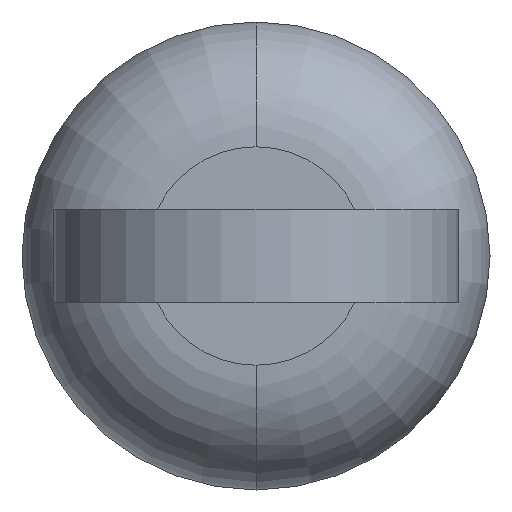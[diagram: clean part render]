
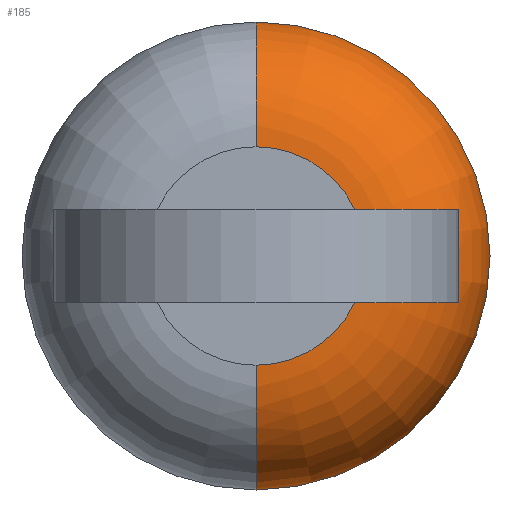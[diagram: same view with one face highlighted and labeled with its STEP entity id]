
A CAD part, front view. The second image highlights one B-rep face of the part: STEP entity #185.
In plain terms, the highlighted toroidal (fillet/blend) face has major radius 3.5 mm and minor radius 4 mm.
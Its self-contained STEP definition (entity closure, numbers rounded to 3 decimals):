
#4 = EDGE_CURVE ( 'NONE', #837, #974, #971, .T. ) ;
#10 = CARTESIAN_POINT ( 'NONE',  ( 5.578, 13.196, 1.5 ) ) ;
#15 = CARTESIAN_POINT ( 'NONE',  ( 3.799, 12.531, 1.5 ) ) ;
#39 = CARTESIAN_POINT ( 'NONE',  ( 4.415, 12.67, -1.5 ) ) ;
#53 = VERTEX_POINT ( 'NONE', #1156 ) ;
#55 = ORIENTED_EDGE ( 'NONE', *, *, #4, .F. ) ;
#110 = CARTESIAN_POINT ( 'NONE',  ( 6.301, 13.81, -1.5 ) ) ;
#115 = CARTESIAN_POINT ( 'NONE',  ( 0., 12.5, 0. ) ) ;
#117 = CARTESIAN_POINT ( 'NONE',  ( 5.57, 13.19, -1.5 ) ) ;
#121 = CARTESIAN_POINT ( 'NONE',  ( 6.5, 14.062, -1.5 ) ) ;
#124 = AXIS2_PLACEMENT_3D ( 'NONE', #115, #784, #600 ) ;
#127 = B_SPLINE_CURVE_WITH_KNOTS ( 'NONE', 3,
 ( #621, #1082, #918, #1010, #532, #348, #1103, #815 ),
 .UNSPECIFIED., .F., .F.,
 ( 4, 2, 2, 4 ),
 ( 0., 0.002, 0.002, 0.003 ),
 .UNSPECIFIED. ) ;
#138 = DIRECTION ( 'NONE',  ( 0., 0., 1. ) ) ;
#141 = DIRECTION ( 'NONE',  ( 0., -1., 0. ) ) ;
#151 = CARTESIAN_POINT ( 'NONE',  ( 0., 16.5, 3.5 ) ) ;
#185 = ADVANCED_FACE ( 'NONE', ( #526 ), #1227, .T. ) ;
#215 = CARTESIAN_POINT ( 'NONE',  ( 4.868, 12.828, -1.5 ) ) ;
#229 = EDGE_CURVE ( 'NONE', #294, #891, #127, .T. ) ;
#241 = AXIS2_PLACEMENT_3D ( 'NONE', #1116, #357, #455 ) ;
#254 = CARTESIAN_POINT ( 'NONE',  ( 0., 12.5, 0. ) ) ;
#294 = VERTEX_POINT ( 'NONE', #1198 ) ;
#303 = CARTESIAN_POINT ( 'NONE',  ( 3.798, 12.531, -1.5 ) ) ;
#319 = ORIENTED_EDGE ( 'NONE', *, *, #1074, .F. ) ;
#321 = CARTESIAN_POINT ( 'NONE',  ( 0., 16.5, 0. ) ) ;
#348 = CARTESIAN_POINT ( 'NONE',  ( 6.5, 13.938, 1.006 ) ) ;
#357 = DIRECTION ( 'NONE',  ( 1., 0., 0. ) ) ;
#361 = ORIENTED_EDGE ( 'NONE', *, *, #397, .T. ) ;
#383 = CARTESIAN_POINT ( 'NONE',  ( 0., 12.5, 3.5 ) ) ;
#385 = AXIS2_PLACEMENT_3D ( 'NONE', #321, #1179, #1077 ) ;
#389 = VERTEX_POINT ( 'NONE', #1126 ) ;
#397 = EDGE_CURVE ( 'NONE', #1006, #389, #693, .T. ) ;
#409 = CARTESIAN_POINT ( 'NONE',  ( 4.718, 12.769, -1.5 ) ) ;
#455 = DIRECTION ( 'NONE',  ( 0., 0., -1. ) ) ;
#478 = CARTESIAN_POINT ( 'NONE',  ( 0., 12.5, -3.5 ) ) ;
#485 = CARTESIAN_POINT ( 'NONE',  ( 4.727, 12.763, 1.5 ) ) ;
#492 = CARTESIAN_POINT ( 'NONE',  ( 3.483, 12.5, -1.5 ) ) ;
#501 = B_SPLINE_CURVE_WITH_KNOTS ( 'NONE', 3,
 ( #868, #492, #303, #687, #39, #409, #215, #881, #117, #970, #110, #121 ),
 .UNSPECIFIED., .F., .F.,
 ( 4, 2, 2, 2, 2, 4 ),
 ( 0., 0.001, 0.001, 0.002, 0.003, 0.004 ),
 .UNSPECIFIED. ) ;
#502 = VERTEX_POINT ( 'NONE', #656 ) ;
#526 = FACE_OUTER_BOUND ( 'NONE', #647, .T. ) ;
#532 = CARTESIAN_POINT ( 'NONE',  ( 6.5, 13.87, 0.501 ) ) ;
#537 = DIRECTION ( 'NONE',  ( 0., 0., 1. ) ) ;
#546 = ORIENTED_EDGE ( 'NONE', *, *, #684, .F. ) ;
#577 = CARTESIAN_POINT ( 'NONE',  ( 6.301, 13.81, 1.5 ) ) ;
#579 = CARTESIAN_POINT ( 'NONE',  ( 5.302, 13.028, 1.5 ) ) ;
#600 = DIRECTION ( 'NONE',  ( 0., 0., 1. ) ) ;
#602 = CIRCLE ( 'NONE', #640, 4. ) ;
#621 = CARTESIAN_POINT ( 'NONE',  ( 6.5, 14.062, -1.5 ) ) ;
#640 = AXIS2_PLACEMENT_3D ( 'NONE', #151, #822, #537 ) ;
#647 = EDGE_LOOP ( 'NONE', ( #546, #361, #683, #1095, #55, #1062, #1212, #319 ) ) ;
#656 = CARTESIAN_POINT ( 'NONE',  ( 3.162, 12.5, -1.5 ) ) ;
#662 = CARTESIAN_POINT ( 'NONE',  ( 3.162, 12.5, 1.5 ) ) ;
#680 = CARTESIAN_POINT ( 'NONE',  ( 3.482, 12.5, 1.5 ) ) ;
#683 = ORIENTED_EDGE ( 'NONE', *, *, #1055, .F. ) ;
#684 = EDGE_CURVE ( 'NONE', #1006, #502, #987, .T. ) ;
#687 = CARTESIAN_POINT ( 'NONE',  ( 4.262, 12.629, -1.5 ) ) ;
#693 = CIRCLE ( 'NONE', #241, 4. ) ;
#696 = CARTESIAN_POINT ( 'NONE',  ( 3.162, 12.5, 1.5 ) ) ;
#760 = CARTESIAN_POINT ( 'NONE',  ( 6.5, 14.062, 1.5 ) ) ;
#784 = DIRECTION ( 'NONE',  ( 0., -1., 0. ) ) ;
#788 = DIRECTION ( 'NONE',  ( 0., 0., 1. ) ) ;
#794 = DIRECTION ( 'NONE',  ( 0., 1., 0. ) ) ;
#803 = AXIS2_PLACEMENT_3D ( 'NONE', #254, #141, #138 ) ;
#815 = CARTESIAN_POINT ( 'NONE',  ( 6.5, 14.062, 1.5 ) ) ;
#822 = DIRECTION ( 'NONE',  ( -1., 0., 0. ) ) ;
#837 = VERTEX_POINT ( 'NONE', #662 ) ;
#868 = CARTESIAN_POINT ( 'NONE',  ( 3.162, 12.5, -1.5 ) ) ;
#881 = CARTESIAN_POINT ( 'NONE',  ( 5.3, 13.027, -1.5 ) ) ;
#891 = VERTEX_POINT ( 'NONE', #1053 ) ;
#918 = CARTESIAN_POINT ( 'NONE',  ( 6.5, 13.855, -0.51 ) ) ;
#963 = CARTESIAN_POINT ( 'NONE',  ( 0., 16.5, 0. ) ) ;
#970 = CARTESIAN_POINT ( 'NONE',  ( 6.072, 13.582, -1.5 ) ) ;
#971 = CIRCLE ( 'NONE', #124, 3.5 ) ;
#974 = VERTEX_POINT ( 'NONE', #383 ) ;
#982 = B_SPLINE_CURVE_WITH_KNOTS ( 'NONE', 3,
 ( #760, #577, #1048, #10, #579, #485, #1149, #15, #680, #696 ),
 .UNSPECIFIED., .F., .F.,
 ( 4, 2, 2, 2, 4 ),
 ( 0., 0.001, 0.002, 0.003, 0.004 ),
 .UNSPECIFIED. ) ;
#987 = CIRCLE ( 'NONE', #803, 3.5 ) ;
#1006 = VERTEX_POINT ( 'NONE', #478 ) ;
#1010 = CARTESIAN_POINT ( 'NONE',  ( 6.5, 13.854, 0.246 ) ) ;
#1019 = CIRCLE ( 'NONE', #1228, 7.5 ) ;
#1037 = EDGE_CURVE ( 'NONE', #891, #837, #982, .T. ) ;
#1048 = CARTESIAN_POINT ( 'NONE',  ( 6.077, 13.587, 1.5 ) ) ;
#1053 = CARTESIAN_POINT ( 'NONE',  ( 6.5, 14.062, 1.5 ) ) ;
#1055 = EDGE_CURVE ( 'NONE', #53, #389, #1019, .T. ) ;
#1062 = ORIENTED_EDGE ( 'NONE', *, *, #1037, .F. ) ;
#1074 = EDGE_CURVE ( 'NONE', #502, #294, #501, .T. ) ;
#1077 = DIRECTION ( 'NONE',  ( 0., 0., 1. ) ) ;
#1082 = CARTESIAN_POINT ( 'NONE',  ( 6.5, 13.918, -1.009 ) ) ;
#1095 = ORIENTED_EDGE ( 'NONE', *, *, #1193, .F. ) ;
#1103 = CARTESIAN_POINT ( 'NONE',  ( 6.5, 13.99, 1.255 ) ) ;
#1116 = CARTESIAN_POINT ( 'NONE',  ( 0., 16.5, -3.5 ) ) ;
#1126 = CARTESIAN_POINT ( 'NONE',  ( 0., 16.5, -7.5 ) ) ;
#1149 = CARTESIAN_POINT ( 'NONE',  ( 4.424, 12.663, 1.5 ) ) ;
#1156 = CARTESIAN_POINT ( 'NONE',  ( 0., 16.5, 7.5 ) ) ;
#1179 = DIRECTION ( 'NONE',  ( 0., 1., 0. ) ) ;
#1193 = EDGE_CURVE ( 'NONE', #974, #53, #602, .T. ) ;
#1198 = CARTESIAN_POINT ( 'NONE',  ( 6.5, 14.062, -1.5 ) ) ;
#1212 = ORIENTED_EDGE ( 'NONE', *, *, #229, .F. ) ;
#1227 = TOROIDAL_SURFACE ( 'NONE', #385, 3.5, 4. ) ;
#1228 = AXIS2_PLACEMENT_3D ( 'NONE', #963, #794, #788 ) ;
